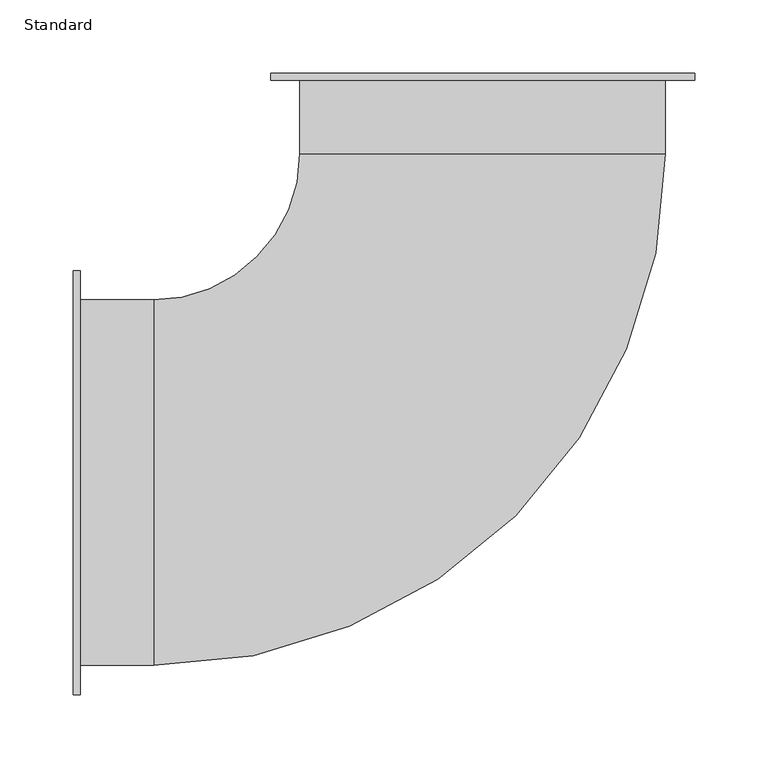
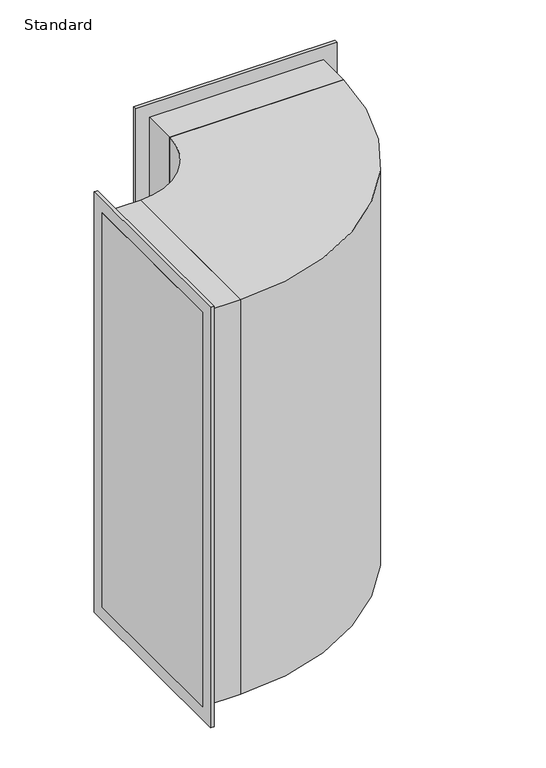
"""IFC4 building model written with IfcOpenShell, lengths in millimetres: duct fitting geometry, Bogen rechteck BS : Standard."""

from ifc_helpers import new_model, si_unit, point, frame, frame_2d, origin, place, context, project, spatial, polyline, circle_curve, trimmed, segment, composite_curve, outline, extrude, source, transform, mapped, element, save


def standard_d2678366(model_context):
    return source(origin(), model_context, "Body", "SweptSolid", [
        extrude(outline(polyline([(125.0, 225.0), (-125.0, 225.0), (-125.0, 280.0), (125.0, 280.0), (125.0, 225.0)])), frame((0.0, 0.0, -300.0), z_axis=(0.0, 0.0, 1.0), x_axis=(1.0, 0.0, 0.0)), (0.0, 0.0, 1.0), 600.0),
        extrude(outline(polyline([(-280.0, 125.0), (-225.0, 125.0), (-225.0, -125.0), (-280.0, -125.0), (-280.0, 125.0)])), frame((0.0, 0.0, -300.0), z_axis=(0.0, 0.0, 1.0), x_axis=(1.0, 0.0, 0.0)), (0.0, 0.0, 1.0), 600.0),
        extrude(outline(composite_curve([segment(trimmed(circle_curve(frame_2d((-225.0, 225.0)), 350.0), [point((125.0, 225.0))], [point((-225.0, -125.0))], False, "CARTESIAN"), True, "CONTINUOUS"), segment(polyline([(-225.0, -125.0), (-225.0, 125.0)]), True, "CONTINUOUS"), segment(trimmed(circle_curve(frame_2d((-225.0, 225.0)), 100.0), [point((-225.0, 125.0))], [point((-125.0, 225.0))], True, "CARTESIAN"), True, "CONTINUOUS"), segment(polyline([(-125.0, 225.0), (125.0, 225.0)]), True, "CONTINUOUS")], self_intersect=False)), frame((0.0, 0.0, -300.0), z_axis=(0.0, 0.0, 1.0), x_axis=(1.0, 0.0, 0.0)), (0.0, 0.0, 1.0), 600.0),
        extrude(outline(polyline([(-280.0, -145.0), (-280.0, 145.0), (-275.0, 145.0), (-275.0, -145.0), (-280.0, -145.0)])), frame((0.0, 0.0, -320.0), z_axis=(0.0, 0.0, 1.0), x_axis=(1.0, 0.0, 0.0)), (0.0, 0.0, 1.0), 640.0),
        extrude(outline(polyline([(145.0, 275.0), (-145.0, 275.0), (-145.0, 280.0), (145.0, 280.0), (145.0, 275.0)])), frame((0.0, 0.0, -320.0), z_axis=(0.0, 0.0, 1.0), x_axis=(1.0, 0.0, 0.0)), (0.0, 0.0, 1.0), 640.0),
    ])


if __name__ == "__main__":
    model = new_model("IFC4")
    model_context = context("Model", 3, world=origin())
    ifc_project = project(units=[si_unit("LENGTHUNIT", "METRE", prefix="MILLI")], contexts=[model_context])
    site = spatial("IfcSite", under=ifc_project)
    building = spatial("IfcBuilding", under=site)
    placement = place(None, origin())
    standard_shape = standard_d2678366(model_context)
    element("IfcDuctFitting", 1, ObjectType="Bogen rechteck BS : Standard", at=placement, inside=building, context=model_context, shape_type="MappedRepresentation", body=[
        mapped(standard_shape, transform((0.0, 0.0, 0.0), x_axis=(1.0, 0.0, 0.0), y_axis=(0.0, 1.0, 0.0), z_axis=(0.0, 0.0, 1.0))),
    ])
    save(model, "model.ifc")
